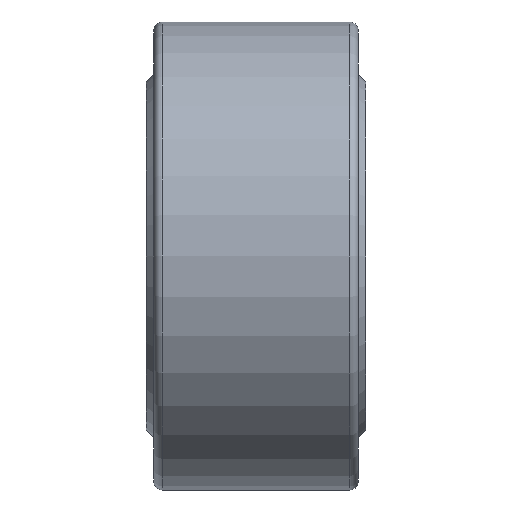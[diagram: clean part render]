
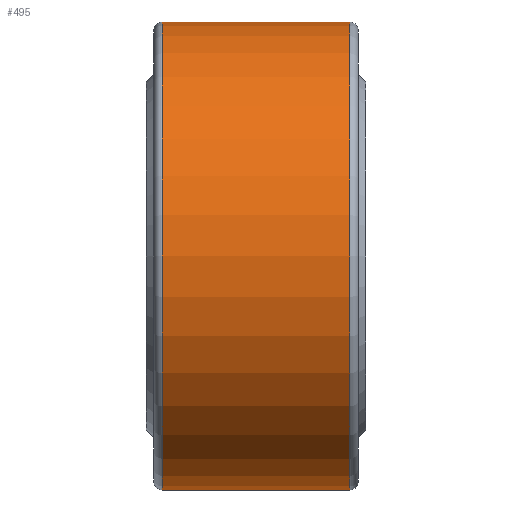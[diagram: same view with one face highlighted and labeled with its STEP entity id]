
A CAD part, front view. The second image highlights one B-rep face of the part: STEP entity #495.
In plain terms, the highlighted cylindrical face has radius 16 mm (diameter 32 mm), a full revolution.
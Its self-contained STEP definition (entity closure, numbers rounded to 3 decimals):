
#133=CYLINDRICAL_SURFACE('',#543,16.);
#149=FACE_BOUND('',#227,.T.);
#186=FACE_OUTER_BOUND('',#226,.T.);
#226=EDGE_LOOP('',(#416));
#227=EDGE_LOOP('',(#417));
#301=CIRCLE('',#542,16.);
#302=CIRCLE('',#544,16.);
#339=VERTEX_POINT('',#852);
#340=VERTEX_POINT('',#855);
#377=EDGE_CURVE('',#339,#339,#301,.T.);
#378=EDGE_CURVE('',#340,#340,#302,.T.);
#416=ORIENTED_EDGE('',*,*,#378,.F.);
#417=ORIENTED_EDGE('',*,*,#377,.F.);
#495=ADVANCED_FACE('',(#186,#149),#133,.T.);
#542=AXIS2_PLACEMENT_3D('',#853,#648,#649);
#543=AXIS2_PLACEMENT_3D('',#854,#650,#651);
#544=AXIS2_PLACEMENT_3D('',#856,#652,#653);
#648=DIRECTION('center_axis',(-1.,0.,0.));
#649=DIRECTION('ref_axis',(0.,-1.,0.));
#650=DIRECTION('center_axis',(1.,0.,0.));
#651=DIRECTION('ref_axis',(0.,1.,0.));
#652=DIRECTION('center_axis',(1.,0.,0.));
#653=DIRECTION('ref_axis',(0.,-1.,0.));
#852=CARTESIAN_POINT('',(-6.4,16.,0.));
#853=CARTESIAN_POINT('Origin',(-6.4,0.,0.));
#854=CARTESIAN_POINT('Origin',(0.,0.,
0.));
#855=CARTESIAN_POINT('',(6.4,16.,0.));
#856=CARTESIAN_POINT('Origin',(6.4,0.,0.));
